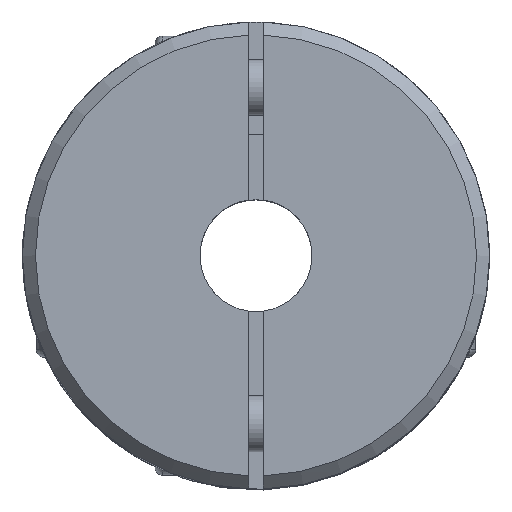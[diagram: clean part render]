
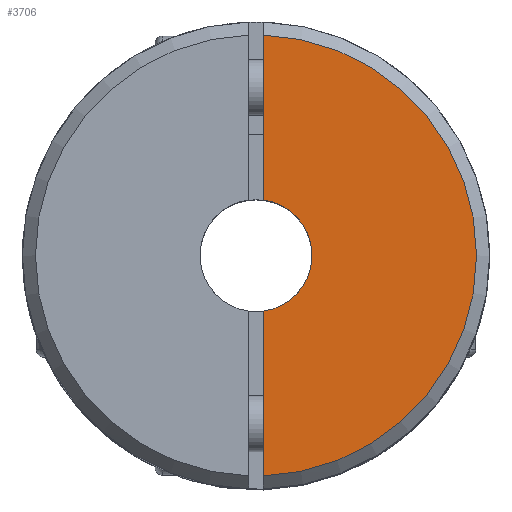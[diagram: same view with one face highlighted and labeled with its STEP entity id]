
A CAD part, top view. The second image highlights one B-rep face of the part: STEP entity #3706.
In plain terms, the highlighted planar face has unit normal (0, 0, 1).
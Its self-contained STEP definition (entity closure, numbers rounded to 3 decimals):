
#2 = EDGE_LOOP ( 'NONE', ( #3178, #2900, #72, #1868 ) ) ;
#26 = VECTOR ( 'NONE', #510, 1000. ) ;
#72 = ORIENTED_EDGE ( 'NONE', *, *, #3355, .T. ) ;
#198 = LINE ( 'NONE', #3332, #26 ) ;
#510 = DIRECTION ( 'NONE',  ( 0., -1., 0. ) ) ;
#539 = DIRECTION ( 'NONE',  ( 0., 0., 1. ) ) ;
#639 = DIRECTION ( 'NONE',  ( 0., 1., 0. ) ) ;
#759 = AXIS2_PLACEMENT_3D ( 'NONE', #894, #2248, #2198 ) ;
#781 = CARTESIAN_POINT ( 'NONE',  ( 0.4, -2.973, 15.5 ) ) ;
#838 = DIRECTION ( 'NONE',  ( 0., -1., 0. ) ) ;
#894 = CARTESIAN_POINT ( 'NONE',  ( 0., 3., 15.5 ) ) ;
#1149 = VERTEX_POINT ( 'NONE', #3977 ) ;
#1163 = FACE_OUTER_BOUND ( 'NONE', #2, .T. ) ;
#1505 = CARTESIAN_POINT ( 'NONE',  ( 0.4, 15., 15.5 ) ) ;
#1547 = VERTEX_POINT ( 'NONE', #3511 ) ;
#1629 = VERTEX_POINT ( 'NONE', #781 ) ;
#1637 = CIRCLE ( 'NONE', #2462, 11.8 ) ;
#1702 = EDGE_CURVE ( 'NONE', #1629, #1149, #198, .T. ) ;
#1721 = CARTESIAN_POINT ( 'NONE',  ( 0.4, 11.793, 15.5 ) ) ;
#1868 = ORIENTED_EDGE ( 'NONE', *, *, #3068, .F. ) ;
#2113 = VERTEX_POINT ( 'NONE', #1721 ) ;
#2198 = DIRECTION ( 'NONE',  ( 0., 1., 0. ) ) ;
#2248 = DIRECTION ( 'NONE',  ( 0., 0., -1. ) ) ;
#2367 = CIRCLE ( 'NONE', #2672, 3. ) ;
#2462 = AXIS2_PLACEMENT_3D ( 'NONE', #3675, #539, #639 ) ;
#2545 = PLANE ( 'NONE',  #759 ) ;
#2672 = AXIS2_PLACEMENT_3D ( 'NONE', #3287, #2861, #838 ) ;
#2861 = DIRECTION ( 'NONE',  ( 0., 0., 1. ) ) ;
#2900 = ORIENTED_EDGE ( 'NONE', *, *, #4343, .T. ) ;
#3068 = EDGE_CURVE ( 'NONE', #1629, #1547, #2367, .T. ) ;
#3178 = ORIENTED_EDGE ( 'NONE', *, *, #1702, .T. ) ;
#3287 = CARTESIAN_POINT ( 'NONE',  ( 0., 0., 15.5 ) ) ;
#3332 = CARTESIAN_POINT ( 'NONE',  ( 0.4, 15., 15.5 ) ) ;
#3355 = EDGE_CURVE ( 'NONE', #2113, #1547, #3975, .T. ) ;
#3511 = CARTESIAN_POINT ( 'NONE',  ( 0.4, 2.973, 15.5 ) ) ;
#3675 = CARTESIAN_POINT ( 'NONE',  ( 0., 0., 15.5 ) ) ;
#3706 = ADVANCED_FACE ( 'NONE', ( #1163 ), #2545, .F. ) ;
#3838 = VECTOR ( 'NONE', #3953, 1000. ) ;
#3953 = DIRECTION ( 'NONE',  ( 0., -1., 0. ) ) ;
#3975 = LINE ( 'NONE', #1505, #3838 ) ;
#3977 = CARTESIAN_POINT ( 'NONE',  ( 0.4, -11.793, 15.5 ) ) ;
#4343 = EDGE_CURVE ( 'NONE', #1149, #2113, #1637, .T. ) ;
